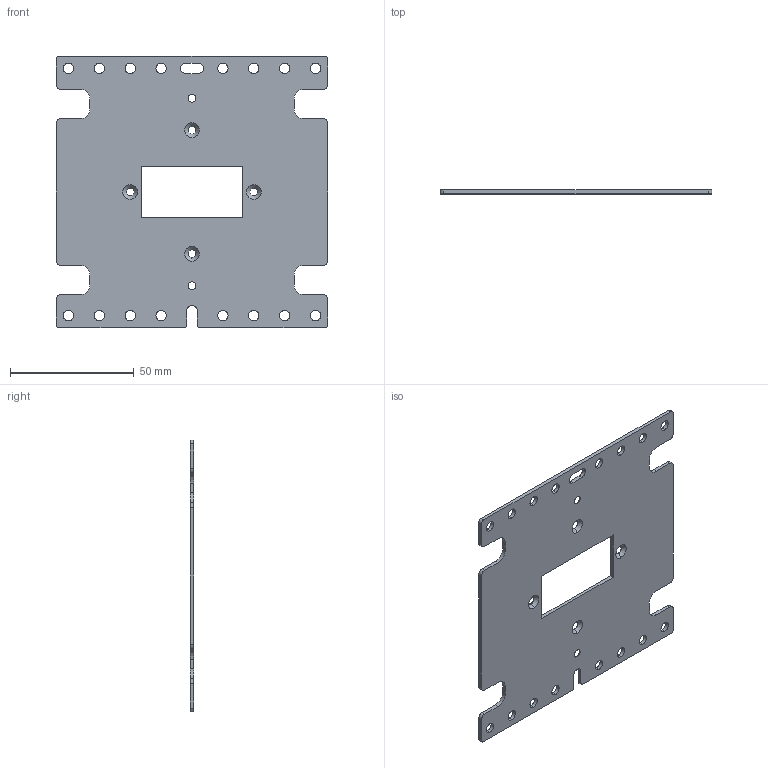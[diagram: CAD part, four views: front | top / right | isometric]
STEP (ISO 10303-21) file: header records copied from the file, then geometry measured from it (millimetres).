
FILE_DESCRIPTION (( 'STEP AP203' ), '1' );
FILE_NAME ('291D010040-Mechanical, FITLETFITLET2 Mounting bracket, Iron, Galvanized, Painted, Black rev 1.1_STEP.STEP', '2018-09-04T09:40:00', ( 'Windows User' ), ( '' ), 'SwSTEP 2.0', 'SolidWorks 2015', '' );
FILE_SCHEMA (( 'CONFIG_CONTROL_DESIGN' ));
Length unit declared in the file: millimetre
Products named in the file (1): 291D010040-Mechanical, FITLETFITLET2 Mounting bracket, Iron, Galvanized, Painted, Black rev 1.1_STEP
Bounding box: 110 x 1.5 x 110 mm (x, y, z)
Volume: 15323.8 mm3; surface area: 21940.2 mm2
Topology: 1 solids, 1 shells, 113 faces, 321 edges, 210 vertices
Faces by surface type: cylinder 70, plane 31, cone 12
Entity records: 3904 total; most frequent: DIRECTION 701, CARTESIAN_POINT 645, ORIENTED_EDGE 642, EDGE_CURVE 321, AXIS2_PLACEMENT_3D 266, VERTEX_POINT 210, VECTOR 169, LINE 169
